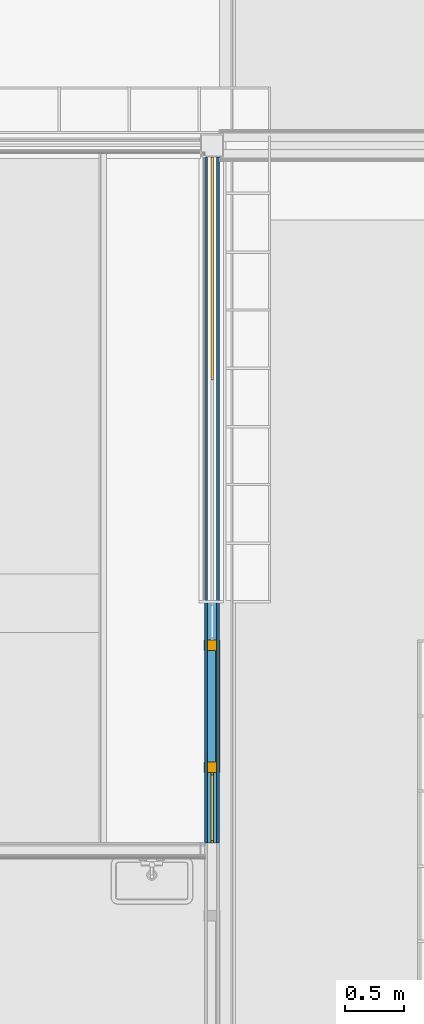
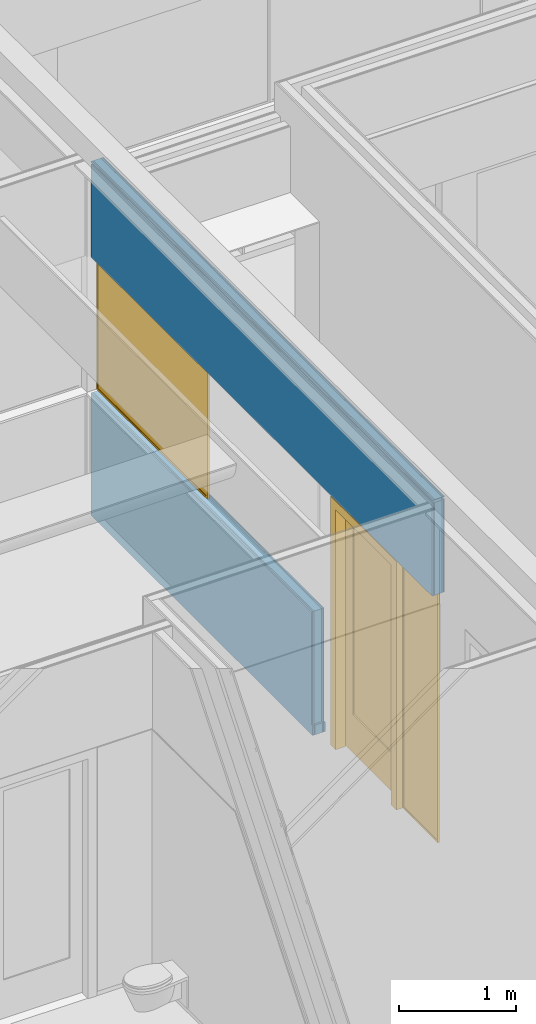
# One storey, part 80 of 165: 5 building element parts, 3 doors, 5 openings, 1 element without a shape of its own.
"""IFC2X3 building model written with IfcOpenShell, lengths in millimetres."""

from ifc_helpers import new_model, entity, si_unit, converted_unit, derived_unit, money_unit, direction, frame, origin_with_axes, place, context, subcontext, project, spatial, open_shell, faceted_brep, surface_model, material, type_object, element, fill, aggregate, save


model = new_model("IFC2X3")

# Units and contexts
model_context = context("Model", 3, precision=0.01, world=origin_with_axes(), true_north=direction((0.0, 1.0)))
body_context = subcontext(model_context, "Body", "Model", "MODEL_VIEW")
ifc_project = project(units=[si_unit("LENGTHUNIT", "METRE", prefix="MILLI"), si_unit("AREAUNIT", "SQUARE_METRE"), si_unit("VOLUMEUNIT", "CUBIC_METRE"), converted_unit("PLANEANGLEUNIT", "DEGREE", entity("IfcPlaneAngleMeasure", 0.0174532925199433), si_unit("PLANEANGLEUNIT", "RADIAN"), dimensions=[0, 0, 0, 0, 0, 0, 0]), money_unit("EUR"), converted_unit("TIMEUNIT", "Year", entity("IfcTimeMeasure", 31556926.0), si_unit("TIMEUNIT", "SECOND"), dimensions=[0, 0, 1, 0, 0, 0, 0]), si_unit("MASSUNIT", "GRAM", prefix="KILO"), si_unit("THERMODYNAMICTEMPERATUREUNIT", "DEGREE_CELSIUS"), si_unit("LUMINOUSINTENSITYUNIT", "LUMEN"), si_unit("ENERGYUNIT", "JOULE", prefix="MEGA"), derived_unit("THERMALCONDUCTANCEUNIT", [(si_unit("POWERUNIT", "WATT"), 1), (si_unit("LENGTHUNIT", "METRE"), -1), (si_unit("THERMODYNAMICTEMPERATUREUNIT", "KELVIN"), -1)]), derived_unit("SPECIFICHEATCAPACITYUNIT", [(si_unit("ENERGYUNIT", "JOULE"), 1), (si_unit("MASSUNIT", "GRAM", prefix="KILO"), -1), (si_unit("THERMODYNAMICTEMPERATUREUNIT", "KELVIN"), -1)]), derived_unit("MASSDENSITYUNIT", [(si_unit("MASSUNIT", "GRAM", prefix="KILO"), 1), (si_unit("VOLUMEUNIT", "CUBIC_METRE"), -1)])], contexts=[model_context])

# Site, building, storey
site_placement = place(None, origin_with_axes())
site = spatial("IfcSite", under=ifc_project, at=site_placement, Name="Site", CompositionType="ELEMENT")
building_placement = place(site_placement, origin_with_axes())
building = spatial("IfcBuilding", under=site, at=building_placement, Name="Naam gebouw", CompositionType="ELEMENT")
storey_placement = place(building_placement, origin_with_axes())
storey = spatial("IfcBuildingStorey", under=building, at=storey_placement, Name="Begane grond", CompositionType="ELEMENT", Elevation=0.0)

# Door
door_style_1 = type_object("IfcDoorStyle", Name="R1 26", ConstructionType="NOTDEFINED", OperationType="SINGLE_SWING_RIGHT", ParameterTakesPrecedence=False, Sizeable=False)
proxy_placement = place(storey_placement, frame((8850.000000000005, 19449.9998112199, -100.0), z_axis=(0.0, 0.0, 1.0), x_axis=(0.0, -1.0, 0.0)))
opening_2_placement = place(proxy_placement, frame((1050.000000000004, 0.0, 1300.0), z_axis=(0.0, 0.0, 1.0), x_axis=(1.0, 0.0, 0.0)))
door_1_placement = place(opening_2_placement, frame((-950.00000000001, 0.0, 0.0), z_axis=(0.0, 0.0, 1.0), x_axis=(1.0, 0.0, 0.0)))
door_1 = element("IfcDoor", 1, at=door_1_placement, inside=storey, type_object=door_style_1, Name="_C.02", ObjectType="DOOR", OverallHeight=1400.0, OverallWidth=1900.0, context=body_context, shape_type="SurfaceModel", body=[
    faceted_brep([(0.0, -7.500000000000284, 20.00000000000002), (19.99999999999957, -7.500000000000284, 20.00000000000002), (19.99999999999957, 12.49999999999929, 20.00000000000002), (0.0, 12.49999999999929, 20.00000000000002), (1880.00000000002, -7.500000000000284, 20.00000000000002), (0.0, -7.500000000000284, 0.0), (1900.00000000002, -7.500000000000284, 0.0), (1900.00000000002, -7.500000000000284, 20.00000000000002), (1880.00000000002, 12.49999999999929, 20.00000000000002), (1900.00000000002, 12.49999999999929, 20.00000000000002), (1900.00000000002, 12.49999999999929, 0.0), (0.0, 12.49999999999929, 0.0)], [[[0, 1, 2, 3]], [[4, 1, 0, 5, 6, 7]], [[1, 4, 8, 2]], [[3, 2, 8, 9, 10, 11]], [[5, 0, 3, 11]], [[6, 5, 11, 10]], [[7, 6, 10, 9]], [[4, 7, 9, 8]]]),
    faceted_brep([(19.99999999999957, -7.500000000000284, 1380.0), (19.99999999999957, 12.49999999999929, 1380.0), (0.0, 12.49999999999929, 1380.0), (0.0, -7.500000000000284, 1380.0), (19.99999999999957, -7.500000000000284, 20.00000000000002), (19.99999999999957, 12.49999999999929, 20.00000000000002), (0.0, 12.49999999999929, 20.00000000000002), (0.0, -7.500000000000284, 20.00000000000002)], [[[0, 1, 2, 3]], [[4, 5, 1, 0]], [[1, 5, 6, 2]], [[3, 2, 6, 7]], [[0, 3, 7, 4]], [[7, 6, 5, 4]]]),
    faceted_brep([(1880.00000000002, -7.500000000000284, 20.00000000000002), (1880.00000000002, 12.49999999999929, 20.00000000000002), (1900.00000000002, 12.49999999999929, 20.00000000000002), (1900.00000000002, -7.500000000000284, 20.00000000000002), (1880.00000000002, -7.500000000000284, 1380.0), (1880.00000000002, 12.49999999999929, 1380.0), (1900.00000000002, 12.49999999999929, 1380.0), (1900.00000000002, -7.500000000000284, 1380.0)], [[[0, 1, 2, 3]], [[4, 5, 1, 0]], [[1, 5, 6, 2]], [[3, 2, 6, 7]], [[0, 3, 7, 4]], [[7, 6, 5, 4]]]),
    faceted_brep([(1880.00000000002, -7.500000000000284, 1380.0), (1880.00000000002, 12.49999999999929, 1380.0), (1900.00000000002, 12.49999999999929, 1380.0), (1900.00000000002, -7.500000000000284, 1380.0), (19.99999999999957, -7.500000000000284, 1380.0), (19.99999999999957, 12.49999999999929, 1380.0), (0.0, 12.49999999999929, 1380.0), (0.0, 12.49999999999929, 1400.0), (1900.00000000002, 12.49999999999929, 1400.0), (1900.00000000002, -7.500000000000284, 1400.0), (0.0, -7.500000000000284, 1400.0), (0.0, -7.500000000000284, 1380.0)], [[[0, 1, 2, 3]], [[4, 5, 1, 0]], [[1, 5, 6, 7, 8, 2]], [[3, 2, 8, 9]], [[0, 3, 9, 10, 11, 4]], [[11, 6, 5, 4]], [[10, 7, 6, 11]], [[9, 8, 7, 10]]]),
    surface_model("IfcShellBasedSurfaceModel", [(19.99999999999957, -2.500000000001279, 20.00000000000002), (1880.00000000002, -2.500000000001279, 20.00000000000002), (1880.00000000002, -2.500000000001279, 1380.0), (19.99999999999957, -2.500000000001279, 1380.0)], [open_shell([[[0, 1, 2, 3]]])]),
    surface_model("IfcShellBasedSurfaceModel", [(19.99999999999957, 7.500000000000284, 20.00000000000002), (19.99999999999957, 7.499999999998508, 1380.0), (1880.00000000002, 7.499999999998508, 1380.0), (1880.00000000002, 7.499999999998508, 20.00000000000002)], [open_shell([[[0, 1, 2, 3]]])]),
])

opening_4_placement = place(proxy_placement, frame((5644.999778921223, 0.0, 100.0), z_axis=(0.0, 0.0, 1.0), x_axis=(1.0, 0.0, 0.0)))
door_2_placement = place(opening_4_placement, frame((-300.0000000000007, 0.0, 0.0), z_axis=(0.0, 0.0, 1.0), x_axis=(1.0, 0.0, 0.0)))
door_2 = element("IfcDoor", 2, at=door_2_placement, inside=storey, type_object=door_style_1, Name="_B.05", ObjectType="DOOR", OverallHeight=2600.0, OverallWidth=600.0, context=body_context, shape_type="SurfaceModel", body=[
    faceted_brep([(20.00000000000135, -7.500000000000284, 2580.0), (20.00000000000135, 12.49999999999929, 2580.0), (0.0, 12.49999999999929, 2580.0), (0.0, -7.500000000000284, 2580.0), (20.00000000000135, -7.500000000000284, 20.0), (20.00000000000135, 12.49999999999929, 20.0), (0.0, 12.49999999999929, 20.0), (0.0, -7.500000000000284, 20.0)], [[[0, 1, 2, 3]], [[4, 5, 1, 0]], [[1, 5, 6, 2]], [[3, 2, 6, 7]], [[0, 3, 7, 4]], [[7, 6, 5, 4]]]),
    faceted_brep([(580.0000000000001, -7.500000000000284, 20.0), (580.0000000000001, 12.49999999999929, 20.0), (600.0000000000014, 12.49999999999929, 20.0), (600.0000000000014, -7.500000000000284, 20.0), (580.0000000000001, -7.500000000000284, 2580.0), (580.0000000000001, 12.49999999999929, 2580.0), (600.0000000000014, 12.49999999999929, 2580.0), (600.0000000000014, -7.500000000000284, 2580.0)], [[[0, 1, 2, 3]], [[4, 5, 1, 0]], [[1, 5, 6, 2]], [[3, 2, 6, 7]], [[0, 3, 7, 4]], [[7, 6, 5, 4]]]),
    faceted_brep([(20.00000000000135, -7.500000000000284, 20.0), (20.00000000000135, 12.49999999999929, 20.0), (0.0, 12.49999999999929, 20.0), (0.0, -7.500000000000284, 20.0), (580.0000000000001, -7.500000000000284, 20.0), (580.0000000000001, 12.49999999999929, 20.0), (600.0000000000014, 12.49999999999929, 20.0), (600.0000000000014, 12.49999999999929, 0.0), (0.0, 12.49999999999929, 0.0), (0.0, -7.500000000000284, 0.0), (600.0000000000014, -7.500000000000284, 0.0), (600.0000000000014, -7.500000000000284, 20.0)], [[[0, 1, 2, 3]], [[4, 5, 1, 0]], [[1, 5, 6, 7, 8, 2]], [[3, 2, 8, 9]], [[0, 3, 9, 10, 11, 4]], [[11, 6, 5, 4]], [[10, 7, 6, 11]], [[9, 8, 7, 10]]]),
    faceted_brep([(580.0000000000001, -7.500000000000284, 2580.0), (580.0000000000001, 12.49999999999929, 2580.0), (600.0000000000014, 12.49999999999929, 2580.0), (600.0000000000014, -7.500000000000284, 2580.0), (20.00000000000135, -7.500000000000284, 2580.0), (20.00000000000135, 12.49999999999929, 2580.0), (0.0, 12.49999999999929, 2580.0), (0.0, 12.49999999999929, 2600.0), (600.0000000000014, 12.49999999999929, 2600.0), (600.0000000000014, -7.500000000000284, 2600.0), (0.0, -7.500000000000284, 2600.0), (0.0, -7.500000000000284, 2580.0)], [[[0, 1, 2, 3]], [[4, 5, 1, 0]], [[1, 5, 6, 7, 8, 2]], [[3, 2, 8, 9]], [[0, 3, 9, 10, 11, 4]], [[11, 6, 5, 4]], [[10, 7, 6, 11]], [[9, 8, 7, 10]]]),
    surface_model("IfcShellBasedSurfaceModel", [(20.00000000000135, -2.500000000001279, 20.0), (580.0000000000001, -2.500000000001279, 20.0), (580.0000000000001, -2.500000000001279, 2580.0), (20.00000000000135, -2.500000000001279, 2580.0)], [open_shell([[[0, 1, 2, 3]]])]),
    surface_model("IfcShellBasedSurfaceModel", [(20.00000000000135, 7.499999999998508, 20.0), (20.00000000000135, 7.499999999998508, 2580.0), (580.0000000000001, 7.499999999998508, 2580.0), (580.0000000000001, 7.499999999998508, 20.0)], [open_shell([[[0, 1, 2, 3]]])]),
])

door_style_2 = type_object("IfcDoorStyle", Name="D1 26", ConstructionType="NOTDEFINED", OperationType="SINGLE_SWING_RIGHT", ParameterTakesPrecedence=False, Sizeable=False)
opening_5_placement = place(proxy_placement, frame((4779.999778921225, 0.0, 100.0), z_axis=(0.0, 0.0, 1.0), x_axis=(1.0, 0.0, 0.0)))
door_3_placement = place(opening_5_placement, frame((-474.9999999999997, 0.0, 0.0), z_axis=(0.0, 0.0, 1.0), x_axis=(1.0, 0.0, 0.0)))
door_3 = element("IfcDoor", 3, at=door_3_placement, inside=storey, type_object=door_style_2, Name="_01.01", ObjectType="DOOR", OverallHeight=2600.0, OverallWidth=1130.0, context=body_context, shape_type="SurfaceModel", body=[
    faceted_brep([(0.0, 29.5000000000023, 0.0), (0.0, 29.5000000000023, 2510.0), (0.0, -69.4999999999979, 2510.0), (0.0, -69.4999999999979, 0.0), (-17.00000000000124, 29.5000000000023, 2510.0), (-17.00000000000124, 29.5000000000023, 0.0), (-17.00000000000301, 69.50000000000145, 2510.0), (-90.00000000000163, 69.50000000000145, 2510.0), (-89.99999999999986, -69.4999999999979, 2510.0), (-89.99999999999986, -69.4999999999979, 0.0), (-90.00000000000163, 69.50000000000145, 0.0), (-17.00000000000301, 69.50000000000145, 0.0)], [[[0, 1, 2, 3]], [[4, 1, 0, 5]], [[4, 6, 7, 8, 2, 1]], [[3, 2, 8, 9]], [[5, 0, 3, 9, 10, 11]], [[6, 4, 5, 11]], [[6, 11, 10, 7]], [[10, 9, 8, 7]]]),
    faceted_brep([(967.0000000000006, 29.50000000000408, 2510.0), (949.9999999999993, 29.50000000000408, 2510.0), (949.9999999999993, -69.49999999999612, 2510.0), (1039.999999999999, -69.49999999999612, 2510.0), (1039.999999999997, 69.50000000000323, 2510.0), (966.9999999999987, 69.50000000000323, 2510.0), (967.0000000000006, 29.5000000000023, 0.0), (949.9999999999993, 29.5000000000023, 0.0), (949.9999999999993, -69.49999999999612, 0.0), (1039.999999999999, -69.49999999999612, 0.0), (1039.999999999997, 69.50000000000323, 0.0), (966.9999999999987, 69.50000000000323, 0.0)], [[[0, 1, 2, 3, 4, 5]], [[1, 0, 6, 7]], [[1, 7, 8, 2]], [[3, 2, 8, 9]], [[4, 3, 9, 10]], [[11, 5, 4, 10]], [[0, 5, 11, 6]], [[6, 11, 10, 9, 8, 7]]]),
    faceted_brep([(-17.00000000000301, 69.50000000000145, 2527.0), (-17.00000000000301, 69.50000000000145, 2510.0), (-90.00000000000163, 69.50000000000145, 2510.0), (-90.00000000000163, 69.50000000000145, 2600.0), (1039.999999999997, 69.50000000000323, 2600.0), (1039.999999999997, 69.50000000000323, 2510.0), (966.9999999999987, 69.50000000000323, 2510.0), (966.9999999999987, 69.50000000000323, 2527.0), (-17.00000000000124, 29.5000000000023, 2527.0), (-17.00000000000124, 29.5000000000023, 2510.0), (0.0, 29.5000000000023, 2510.0), (0.0, -69.4999999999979, 2510.0), (-89.99999999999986, -69.4999999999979, 2510.0), (-89.99999999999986, -69.4999999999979, 2600.0), (1039.999999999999, -69.49999999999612, 2600.0), (1039.999999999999, -69.49999999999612, 2510.0), (967.0000000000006, 29.50000000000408, 2510.0), (949.9999999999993, -69.49999999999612, 2510.0), (949.9999999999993, 29.50000000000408, 2510.0), (967.0000000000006, 29.50000000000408, 2527.0)], [[[0, 1, 2, 3, 4, 5, 6, 7]], [[1, 0, 8, 9]], [[9, 10, 11, 12, 2, 1]], [[2, 12, 13, 3]], [[3, 13, 14, 4]], [[4, 14, 15, 5]], [[16, 6, 5, 15, 17, 18]], [[7, 6, 16, 19]], [[0, 7, 19, 8]], [[16, 18, 10, 9, 8, 19]], [[10, 18, 17, 11]], [[17, 15, 14, 13, 12, 11]]]),
    faceted_brep([(966.9999999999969, 69.50000000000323, 410.0000000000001), (966.9999999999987, 29.5000000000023, 410.0000000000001), (827.0, 29.5000000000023, 410.0000000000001), (826.9999999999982, 69.50000000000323, 410.0000000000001), (966.9999999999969, 69.50000000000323, 2387.0), (966.9999999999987, 29.5000000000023, 2387.0), (827.0, 29.5000000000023, 2387.0), (826.9999999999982, 69.50000000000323, 2387.0)], [[[0, 1, 2, 3]], [[4, 5, 1, 0]], [[1, 5, 6, 2]], [[3, 2, 6, 7]], [[0, 3, 7, 4]], [[7, 6, 5, 4]]]),
    faceted_brep([(-17.00000000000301, 69.50000000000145, 410.0000000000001), (-17.00000000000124, 29.5000000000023, 410.0000000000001), (-17.00000000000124, 29.5000000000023, 2387.0), (-17.00000000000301, 69.50000000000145, 2387.0), (122.9999999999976, 69.50000000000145, 410.0000000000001), (122.9999999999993, 29.5000000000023, 410.0000000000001), (122.9999999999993, 29.5000000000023, 2387.0), (122.9999999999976, 69.50000000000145, 2387.0)], [[[0, 1, 2, 3]], [[4, 5, 1, 0]], [[1, 5, 6, 2]], [[3, 2, 6, 7]], [[0, 3, 7, 4]], [[7, 6, 5, 4]]]),
    faceted_brep([(966.9999999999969, 69.50000000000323, 9.999999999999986), (966.9999999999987, 29.5000000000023, 9.999999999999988), (-17.00000000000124, 29.5000000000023, 9.999999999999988), (-17.00000000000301, 69.50000000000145, 9.999999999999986), (966.9999999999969, 69.50000000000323, 410.0000000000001), (966.9999999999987, 29.5000000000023, 410.0000000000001), (827.0, 29.5000000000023, 410.0000000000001), (122.9999999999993, 29.5000000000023, 410.0000000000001), (-17.00000000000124, 29.5000000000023, 410.0000000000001), (-17.00000000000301, 69.50000000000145, 410.0000000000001), (122.9999999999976, 69.50000000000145, 410.0000000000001), (826.9999999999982, 69.50000000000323, 410.0000000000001)], [[[0, 1, 2, 3]], [[4, 5, 1, 0]], [[1, 5, 6, 7, 8, 2]], [[3, 2, 8, 9]], [[0, 3, 9, 10, 11, 4]], [[11, 6, 5, 4]], [[10, 7, 6, 11]], [[9, 8, 7, 10]]]),
    faceted_brep([(966.9999999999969, 69.50000000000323, 2527.0), (966.9999999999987, 29.5000000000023, 2527.0), (966.9999999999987, 29.5000000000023, 2387.0), (966.9999999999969, 69.50000000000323, 2387.0), (-17.00000000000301, 69.50000000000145, 2527.0), (-17.00000000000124, 29.5000000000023, 2527.0), (-17.00000000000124, 29.5000000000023, 2387.0), (122.9999999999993, 29.5000000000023, 2387.0), (827.0, 29.5000000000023, 2387.0), (826.9999999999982, 69.50000000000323, 2387.0), (122.9999999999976, 69.50000000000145, 2387.0), (-17.00000000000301, 69.50000000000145, 2387.0)], [[[0, 1, 2, 3]], [[4, 5, 1, 0]], [[1, 5, 6, 7, 8, 2]], [[3, 2, 8, 9]], [[0, 3, 9, 10, 11, 4]], [[11, 6, 5, 4]], [[10, 7, 6, 11]], [[9, 8, 7, 10]]]),
    surface_model("IfcShellBasedSurfaceModel", [(827.0, 55.50000000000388, 410.0000000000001), (122.9999999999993, 55.5000000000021, 410.0000000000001), (122.9999999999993, 55.5000000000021, 2387.0), (827.0, 55.50000000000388, 2387.0)], [open_shell([[[0, 1, 2, 3]]])]),
    surface_model("IfcShellBasedSurfaceModel", [(827.0, 43.50000000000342, 410.0000000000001), (827.0, 43.50000000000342, 2387.0), (122.9999999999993, 43.50000000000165, 2387.0), (122.9999999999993, 43.50000000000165, 410.0000000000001)], [open_shell([[[0, 1, 2, 3]]])]),
])

# Proxy, openings
building_element_proxy_type = type_object("IfcBuildingElementProxyType", Name="22 Metal stud 125 gips 125", PredefinedType="NOTDEFINED")
proxy = element("IfcBuildingElementProxy", 4, at=proxy_placement, inside=storey, type_object=building_element_proxy_type, Name="_Wand-x")
opening_1_placement = place(proxy_placement, frame((2950.00000000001, 0.0, 1300.0), z_axis=(0.0, 0.0, 1.0), x_axis=(1.0, 0.0, 0.0)))
element("IfcOpeningElement", 5, at=opening_1_placement, cuts=proxy, Name="_C.02", context=body_context, shape_type="Brep", body=[
    faceted_brep([(-949.9999999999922, 12.49999999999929, 0.0), (-949.9999999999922, 12.49999999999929, 1400.0), (-949.9999999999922, 63.49999999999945, 1400.0), (-949.9999999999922, 63.49999999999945, 0.0), (-949.9999999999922, -63.50000000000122, 0.0), (-949.9999999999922, -63.50000000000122, 1400.0), (949.9999999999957, 12.49999999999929, 1400.0), (949.9999999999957, 63.49999999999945, 1400.0), (949.9999999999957, -63.50000000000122, 1400.0), (949.9999999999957, 63.49999999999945, 0.0), (949.9999999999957, 12.49999999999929, 0.0), (949.9999999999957, -63.50000000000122, 0.0)], [[[0, 1, 2, 3]], [[1, 0, 4, 5]], [[6, 7, 2, 1, 5, 8]], [[7, 9, 3, 2]], [[0, 3, 9, 10, 11, 4]], [[5, 4, 11, 8]], [[6, 10, 9, 7]], [[10, 6, 8, 11]]]),
])
opening_2 = element("IfcOpeningElement", 6, at=opening_2_placement, cuts=proxy, Name="_C.02", context=body_context, shape_type="Brep", body=[
    faceted_brep([(-950.00000000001, 12.49999999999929, 0.0), (-950.00000000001, 12.49999999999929, 1400.0), (-950.00000000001, 63.49999999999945, 1400.0), (-950.00000000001, 63.49999999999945, 0.0), (-950.00000000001, -63.50000000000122, 0.0), (-950.00000000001, -63.50000000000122, 1400.0), (950.00000000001, 12.49999999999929, 1400.0), (950.00000000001, 63.49999999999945, 1400.0), (950.00000000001, -63.50000000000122, 1400.0), (950.00000000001, 63.49999999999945, 0.0), (950.00000000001, 12.49999999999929, 0.0), (950.00000000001, -63.50000000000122, 0.0)], [[[0, 1, 2, 3]], [[1, 0, 4, 5]], [[6, 7, 2, 1, 5, 8]], [[7, 9, 3, 2]], [[0, 3, 9, 10, 11, 4]], [[5, 4, 11, 8]], [[6, 10, 9, 7]], [[10, 6, 8, 11]]]),
])

fill(opening_2, door_1)

# Opening
opening_3_placement = place(proxy_placement, frame((4057.499889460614, 0.0, 100.0), z_axis=(0.0, 0.0, 1.0), x_axis=(1.0, 0.0, 0.0)))
element("IfcOpeningElement", 7, at=opening_3_placement, cuts=proxy, Name="_B.15", context=body_context, shape_type="Brep", body=[
    faceted_brep([(-157.4998894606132, 12.50000000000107, -100.0000000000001), (-157.4998894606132, 12.50000000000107, 2600.0), (-157.4998894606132, 63.50000000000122, 2600.0), (-157.4998894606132, 63.50000000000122, -100.0000000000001), (-157.4998894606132, -63.49999999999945, -100.0000000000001), (-157.4998894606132, -63.49999999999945, 2600.0), (157.4998894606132, 12.50000000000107, 2600.0), (157.4998894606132, 63.50000000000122, 2600.0), (157.4998894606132, -63.49999999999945, 2600.0), (157.4998894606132, 63.50000000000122, -100.0000000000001), (157.4998894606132, 12.50000000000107, -100.0000000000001), (157.4998894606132, -63.49999999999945, -100.0000000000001)], [[[0, 1, 2, 3]], [[1, 0, 4, 5]], [[6, 7, 2, 1, 5, 8]], [[7, 9, 3, 2]], [[0, 3, 9, 10, 11, 4]], [[5, 4, 11, 8]], [[6, 10, 9, 7]], [[10, 6, 8, 11]]]),
])

opening_4 = element("IfcOpeningElement", 8, at=opening_4_placement, cuts=proxy, Name="_B.05", context=body_context, shape_type="Brep", body=[
    faceted_brep([(-300.0000000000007, 12.49999999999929, -100.0000000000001), (-300.0000000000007, 12.49999999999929, 2600.0), (-300.0000000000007, 63.50000000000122, 2600.0), (-300.0000000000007, 63.50000000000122, -100.0000000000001), (-300.0000000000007, -63.49999999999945, -100.0000000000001), (-300.0000000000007, -63.49999999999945, 2600.0), (300.0000000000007, 12.49999999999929, 2600.0), (300.0000000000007, 63.50000000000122, 2600.0), (300.0000000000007, -63.49999999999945, 2600.0), (300.0000000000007, 63.50000000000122, -100.0000000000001), (300.0000000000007, 12.49999999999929, -100.0000000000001), (300.0000000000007, -63.49999999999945, -100.0000000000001)], [[[0, 1, 2, 3]], [[1, 0, 4, 5]], [[6, 7, 2, 1, 5, 8]], [[7, 9, 3, 2]], [[0, 3, 9, 10, 11, 4]], [[5, 4, 11, 8]], [[6, 10, 9, 7]], [[10, 6, 8, 11]]]),
])

fill(opening_4, door_2)

opening_5 = element("IfcOpeningElement", 9, at=opening_5_placement, cuts=proxy, Name="_01.01", context=body_context, shape_type="Brep", body=[
    faceted_brep([(564.9999999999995, 63.50000000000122, 2600.0), (564.9999999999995, 63.50000000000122, -100.0000000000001), (-564.9999999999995, 63.49999999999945, -100.0000000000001), (-564.9999999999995, 63.49999999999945, 2600.0), (564.9999999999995, -63.49999999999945, 2600.0), (564.9999999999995, -63.49999999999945, -100.0000000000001), (-564.9999999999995, -63.50000000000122, -100.0000000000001), (-564.9999999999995, -63.50000000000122, 2600.0)], [[[0, 1, 2, 3]], [[4, 5, 1, 0]], [[5, 6, 2, 1]], [[6, 7, 3, 2]], [[7, 4, 0, 3]], [[6, 5, 4, 7]]]),
])

fill(opening_5, door_3)

# Building element part
ifc_material_1 = material(Name="Gipsplaat")
building_element_part_1_placement = place(proxy_placement, origin_with_axes())
building_element_part_1 = element("IfcBuildingElementPart", 10, at=building_element_part_1_placement, material=ifc_material_1, Name="Gipsplaat", context=body_context, shape_type="Brep", body=[
    faceted_brep([(3880.004312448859, 50.00000000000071, 1280.0), (3880.004336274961, 62.5, 1280.0), (99.99999999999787, 62.5, 1280.0), (99.99999999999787, 50.00000000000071, 1280.0), (3880.004336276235, 62.5, 100.0), (3880.004312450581, 50.00000000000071, 100.0), (3900.004336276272, 62.49999999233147, 100.0), (3900.000000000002, 62.5, 0.0), (100.0000000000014, 62.5, 0.0), (100.0000000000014, 50.00000000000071, 0.0), (3900.000000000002, 49.99999999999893, 0.0), (3900.004312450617, 49.99999999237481, 100.0)], [[[0, 1, 2, 3]], [[4, 1, 0, 5]], [[4, 6, 7, 8, 2, 1]], [[9, 3, 2, 8]], [[5, 0, 3, 9, 10, 11]], [[6, 4, 5, 11]], [[6, 11, 10, 7]], [[7, 10, 9, 8]]]),
    faceted_brep([(5944.999778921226, 62.50000000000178, 2700.0), (99.99999999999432, 62.5, 2700.0), (100.0000000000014, 62.5, 3670.000002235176), (5944.999778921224, 62.50000000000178, 3670.000002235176), (5944.999778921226, 50.00000000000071, 2700.0), (99.99999999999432, 50.00000000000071, 2700.0), (100.0000000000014, 50.00000000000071, 3670.000002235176), (5944.999778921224, 50.00000000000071, 3670.000002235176)], [[[0, 1, 2, 3]], [[4, 5, 1, 0]], [[2, 1, 5, 6]], [[2, 6, 7, 3]], [[0, 3, 7, 4]], [[5, 4, 7, 6]]]),
    faceted_brep([(100.0000000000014, 62.5, 3695.000002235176), (100.0000000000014, 62.5, 3699.999999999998), (5944.999778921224, 62.50000000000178, 3700.0), (5944.999778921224, 62.50000000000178, 3695.000002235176), (100.0000000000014, 50.00000000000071, 3699.999999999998), (100.0000000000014, 50.00000000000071, 3695.000002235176), (5944.999778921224, 50.00000000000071, 3700.0), (5944.999778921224, 50.00000000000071, 3695.000002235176)], [[[0, 1, 2, 3]], [[4, 1, 0, 5]], [[1, 4, 6, 2]], [[6, 7, 3, 2]], [[5, 0, 3, 7]], [[4, 5, 7, 6]]]),
])

ifc_material_2 = material(Name="ALG - LICHTE SCHEIDINGSWAND")
building_element_part_2_placement = place(proxy_placement, origin_with_axes())
building_element_part_2 = element("IfcBuildingElementPart", 11, at=building_element_part_2_placement, material=ifc_material_2, Name="ALG - LICHTE SCHEIDINGSWAND", context=body_context, shape_type="Brep", body=[
    faceted_brep([(3880.004145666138, -37.49999999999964, 1280.0), (3880.004288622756, 37.49999999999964, 1280.0), (99.99999999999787, 37.49999999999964, 1280.0), (99.99999999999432, -37.49999999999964, 1280.0), (3880.004288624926, 37.49999999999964, 100.0), (3880.004145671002, -37.49999999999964, 100.0), (3900.004288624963, 37.49999999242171, 100.0), (3900.000000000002, 37.49999999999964, 0.0), (100.0000000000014, 37.49999999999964, 0.0), (100.0000000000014, -37.49999999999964, 0.0), (3900.000000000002, -37.50000000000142, 0.0), (3900.004145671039, -37.50000000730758, 100.0)], [[[0, 1, 2, 3]], [[4, 1, 0, 5]], [[4, 6, 7, 8, 2, 1]], [[9, 3, 2, 8]], [[5, 0, 3, 9, 10, 11]], [[6, 4, 5, 11]], [[6, 11, 10, 7]], [[10, 9, 8, 7]]]),
    faceted_brep([(5944.999778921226, 37.50000000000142, 2700.0), (99.99999999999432, 37.49999999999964, 2700.0), (100.0000000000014, 37.49999999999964, 3670.000002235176), (5944.999778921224, 37.50000000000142, 3670.000002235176), (5944.999778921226, -37.49999999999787, 2700.0), (99.99999999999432, -37.49999999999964, 2700.0), (100.0000000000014, -37.49999999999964, 3670.000002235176), (5944.999778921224, -37.49999999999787, 3670.000002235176)], [[[0, 1, 2, 3]], [[4, 5, 1, 0]], [[2, 1, 5, 6]], [[2, 6, 7, 3]], [[3, 7, 4, 0]], [[5, 4, 7, 6]]]),
    faceted_brep([(100.0000000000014, 37.49999999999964, 3695.000002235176), (100.0000000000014, 37.49999999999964, 3699.999999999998), (5944.999778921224, 37.50000000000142, 3700.0), (5944.999778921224, 37.50000000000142, 3695.000002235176), (100.0000000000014, -37.49999999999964, 3699.999999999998), (100.0000000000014, -37.49999999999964, 3695.000002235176), (5944.999778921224, -37.49999999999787, 3700.0), (5944.999778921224, -37.49999999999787, 3695.000002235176)], [[[0, 1, 2, 3]], [[4, 1, 0, 5]], [[1, 4, 6, 2]], [[6, 7, 3, 2]], [[5, 0, 3, 7]], [[4, 5, 7, 6]]]),
])

building_element_part_3_placement = place(proxy_placement, origin_with_axes())
building_element_part_3 = element("IfcBuildingElementPart", 12, at=building_element_part_3_placement, material=ifc_material_1, Name="Gipsplaat", context=body_context, shape_type="Brep", body=[
    faceted_brep([(3880.004288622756, 37.49999999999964, 1280.0), (3880.004312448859, 50.00000000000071, 1280.0), (99.99999999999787, 50.00000000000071, 1280.0), (99.99999999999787, 37.49999999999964, 1280.0), (3880.004312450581, 50.00000000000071, 100.0), (3880.004288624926, 37.49999999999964, 100.0), (3900.004312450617, 49.99999999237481, 100.0), (3900.000000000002, 49.99999999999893, 0.0), (100.0000000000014, 50.00000000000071, 0.0), (100.0000000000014, 37.49999999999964, 0.0), (3900.000000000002, 37.49999999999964, 0.0), (3900.004288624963, 37.49999999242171, 100.0)], [[[0, 1, 2, 3]], [[4, 1, 0, 5]], [[4, 6, 7, 8, 2, 1]], [[9, 3, 2, 8]], [[5, 0, 3, 9, 10, 11]], [[6, 4, 5, 11]], [[6, 11, 10, 7]], [[7, 10, 9, 8]]]),
    faceted_brep([(5944.999778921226, 50.00000000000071, 2700.0), (99.99999999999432, 50.00000000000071, 2700.0), (100.0000000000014, 50.00000000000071, 3670.000002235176), (5944.999778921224, 50.00000000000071, 3670.000002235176), (5944.999778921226, 37.50000000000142, 2700.0), (99.99999999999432, 37.49999999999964, 2700.0), (100.0000000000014, 37.49999999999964, 3670.000002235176), (5944.999778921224, 37.50000000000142, 3670.000002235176)], [[[0, 1, 2, 3]], [[4, 5, 1, 0]], [[2, 1, 5, 6]], [[2, 6, 7, 3]], [[0, 3, 7, 4]], [[5, 4, 7, 6]]]),
    faceted_brep([(100.0000000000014, 50.00000000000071, 3695.000002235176), (100.0000000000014, 50.00000000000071, 3699.999999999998), (5944.999778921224, 50.00000000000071, 3700.0), (5944.999778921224, 50.00000000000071, 3695.000002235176), (100.0000000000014, 37.49999999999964, 3699.999999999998), (100.0000000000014, 37.49999999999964, 3695.000002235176), (5944.999778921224, 37.50000000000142, 3700.0), (5944.999778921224, 37.50000000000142, 3695.000002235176)], [[[0, 1, 2, 3]], [[4, 1, 0, 5]], [[1, 4, 6, 2]], [[6, 7, 3, 2]], [[5, 0, 3, 7]], [[4, 5, 7, 6]]]),
])

building_element_part_4_placement = place(proxy_placement, origin_with_axes())
building_element_part_4 = element("IfcBuildingElementPart", 13, at=building_element_part_4_placement, material=ifc_material_1, Name="Gipsplaat", context=body_context, shape_type="Brep", body=[
    faceted_brep([(3880.004098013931, -62.5, 1280.0), (3880.004121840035, -50.00000000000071, 1280.0), (99.99999999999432, -50.00000000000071, 1280.0), (99.99999999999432, -62.5, 1280.0), (3880.004121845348, -50.00000000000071, 100.0), (3880.004098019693, -62.5, 100.0), (3900.004121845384, -50.00000000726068, 100.0), (3900.000000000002, -50.00000000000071, 0.0), (100.0000000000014, -50.00000000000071, 0.0), (100.0000000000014, -62.5, 0.0), (3900.000000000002, -62.5, 0.0), (3900.00409801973, -62.50000000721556, 100.0)], [[[0, 1, 2, 3]], [[4, 1, 0, 5]], [[4, 6, 7, 8, 2, 1]], [[9, 3, 2, 8]], [[5, 0, 3, 9, 10, 11]], [[6, 4, 5, 11]], [[6, 11, 10, 7]], [[7, 10, 9, 8]]]),
    faceted_brep([(5944.999778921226, -49.99999999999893, 2700.0), (99.99999999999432, -49.99999999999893, 2700.0), (100.0000000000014, -49.99999999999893, 3670.000002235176), (5944.999778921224, -49.99999999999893, 3670.000002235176), (5944.999778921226, -62.49999999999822, 2700.0), (99.99999999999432, -62.5, 2700.0), (100.0000000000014, -62.5, 3670.000002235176), (5944.999778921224, -62.49999999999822, 3670.000002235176)], [[[0, 1, 2, 3]], [[4, 5, 1, 0]], [[2, 1, 5, 6]], [[2, 6, 7, 3]], [[0, 3, 7, 4]], [[5, 4, 7, 6]]]),
    faceted_brep([(100.0000000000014, -49.99999999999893, 3695.000002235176), (100.0000000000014, -49.99999999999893, 3699.999999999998), (5944.999778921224, -49.99999999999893, 3700.0), (5944.999778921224, -49.99999999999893, 3695.000002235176), (100.0000000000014, -62.5, 3699.999999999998), (100.0000000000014, -62.5, 3695.000002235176), (5944.999778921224, -62.49999999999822, 3700.0), (5944.999778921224, -62.49999999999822, 3695.000002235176)], [[[0, 1, 2, 3]], [[4, 1, 0, 5]], [[1, 4, 6, 2]], [[6, 7, 3, 2]], [[5, 0, 3, 7]], [[4, 5, 7, 6]]]),
])

building_element_part_5_placement = place(proxy_placement, origin_with_axes())
building_element_part_5 = element("IfcBuildingElementPart", 14, at=building_element_part_5_placement, material=ifc_material_1, Name="Gipsplaat", context=body_context, shape_type="Brep", body=[
    faceted_brep([(3880.004121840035, -49.99999999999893, 1280.0), (3880.004145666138, -37.49999999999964, 1280.0), (99.99999999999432, -37.49999999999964, 1280.0), (99.99999999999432, -50.00000000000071, 1280.0), (3880.004145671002, -37.49999999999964, 100.0), (3880.004121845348, -49.99999999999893, 100.0), (3900.004145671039, -37.50000000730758, 100.0), (3900.000000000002, -37.50000000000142, 0.0), (100.0000000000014, -37.49999999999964, 0.0), (100.0000000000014, -50.00000000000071, 0.0), (3900.000000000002, -50.00000000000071, 0.0), (3900.004121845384, -50.00000000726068, 100.0)], [[[0, 1, 2, 3]], [[4, 1, 0, 5]], [[4, 6, 7, 8, 2, 1]], [[9, 3, 2, 8]], [[5, 0, 3, 9, 10, 11]], [[6, 4, 5, 11]], [[6, 11, 10, 7]], [[7, 10, 9, 8]]]),
    faceted_brep([(5944.999778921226, -37.49999999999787, 2700.0), (99.99999999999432, -37.49999999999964, 2700.0), (100.0000000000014, -37.49999999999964, 3670.000002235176), (5944.999778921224, -37.49999999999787, 3670.000002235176), (5944.999778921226, -49.99999999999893, 2700.0), (99.99999999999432, -49.99999999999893, 2700.0), (100.0000000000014, -49.99999999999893, 3670.000002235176), (5944.999778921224, -49.99999999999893, 3670.000002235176)], [[[0, 1, 2, 3]], [[4, 5, 1, 0]], [[2, 1, 5, 6]], [[2, 6, 7, 3]], [[0, 3, 7, 4]], [[5, 4, 7, 6]]]),
    faceted_brep([(100.0000000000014, -37.49999999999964, 3695.000002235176), (100.0000000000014, -37.49999999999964, 3699.999999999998), (5944.999778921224, -37.49999999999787, 3700.0), (5944.999778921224, -37.49999999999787, 3695.000002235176), (100.0000000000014, -49.99999999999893, 3699.999999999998), (100.0000000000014, -49.99999999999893, 3695.000002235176), (5944.999778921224, -49.99999999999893, 3700.0), (5944.999778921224, -49.99999999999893, 3695.000002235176)], [[[0, 1, 2, 3]], [[4, 1, 0, 5]], [[1, 4, 6, 2]], [[6, 7, 3, 2]], [[5, 0, 3, 7]], [[4, 5, 7, 6]]]),
])

aggregate(proxy, [building_element_part_1, building_element_part_2, building_element_part_3, building_element_part_4, building_element_part_5])

save(model, "model.ifc")
